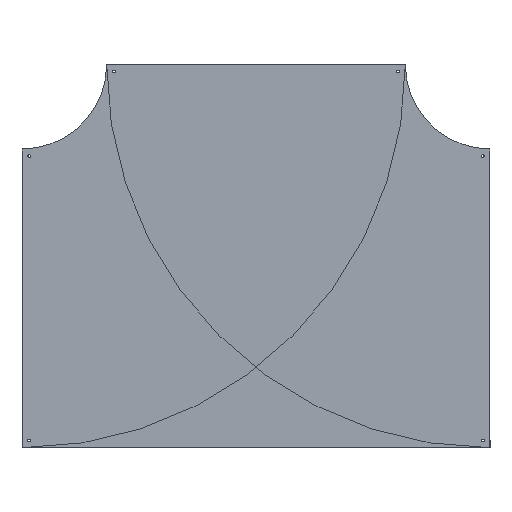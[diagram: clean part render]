
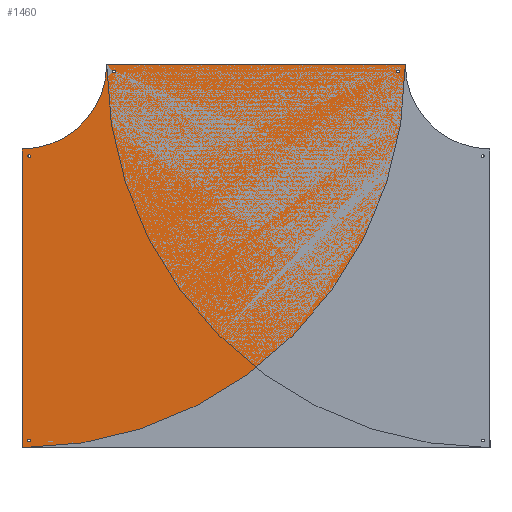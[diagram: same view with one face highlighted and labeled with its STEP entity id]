
A CAD part, top view. The second image highlights one B-rep face of the part: STEP entity #1460.
In plain terms, the highlighted planar face has unit normal (0, 0, 1).
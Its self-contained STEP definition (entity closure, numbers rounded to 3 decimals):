
#89=FACE_BOUND('',#365,.T.);
#90=FACE_BOUND('',#366,.T.);
#91=FACE_BOUND('',#367,.T.);
#92=FACE_BOUND('',#368,.T.);
#149=CIRCLE('',#1604,1351.5);
#150=CIRCLE('',#1605,298.5);
#151=CIRCLE('',#1606,5.);
#152=CIRCLE('',#1607,5.);
#153=CIRCLE('',#1608,5.);
#154=CIRCLE('',#1609,5.);
#155=CIRCLE('',#1610,5.);
#156=CIRCLE('',#1611,5.);
#157=CIRCLE('',#1612,5.);
#158=CIRCLE('',#1613,5.);
#268=FACE_OUTER_BOUND('',#364,.T.);
#364=EDGE_LOOP('',(#1224,#1225,#1226,#1227));
#365=EDGE_LOOP('',(#1228,#1229));
#366=EDGE_LOOP('',(#1230,#1231));
#367=EDGE_LOOP('',(#1232,#1233));
#368=EDGE_LOOP('',(#1234,#1235));
#488=LINE('',#2427,#602);
#492=LINE('',#2436,#606);
#602=VECTOR('',#1972,304.8);
#606=VECTOR('',#1978,304.8);
#718=VERTEX_POINT('',#2425);
#719=VERTEX_POINT('',#2426);
#722=VERTEX_POINT('',#2434);
#723=VERTEX_POINT('',#2435);
#726=VERTEX_POINT('',#2445);
#727=VERTEX_POINT('',#2446);
#728=VERTEX_POINT('',#2449);
#729=VERTEX_POINT('',#2450);
#730=VERTEX_POINT('',#2453);
#731=VERTEX_POINT('',#2454);
#732=VERTEX_POINT('',#2457);
#733=VERTEX_POINT('',#2458);
#892=EDGE_CURVE('',#718,#719,#488,.T.);
#896=EDGE_CURVE('',#722,#723,#492,.T.);
#900=EDGE_CURVE('',#718,#723,#149,.T.);
#901=EDGE_CURVE('',#722,#719,#150,.T.);
#902=EDGE_CURVE('',#726,#727,#151,.T.);
#903=EDGE_CURVE('',#727,#726,#152,.T.);
#904=EDGE_CURVE('',#728,#729,#153,.T.);
#905=EDGE_CURVE('',#729,#728,#154,.T.);
#906=EDGE_CURVE('',#730,#731,#155,.T.);
#907=EDGE_CURVE('',#731,#730,#156,.T.);
#908=EDGE_CURVE('',#732,#733,#157,.T.);
#909=EDGE_CURVE('',#733,#732,#158,.T.);
#1224=ORIENTED_EDGE('',*,*,#892,.F.);
#1225=ORIENTED_EDGE('',*,*,#900,.T.);
#1226=ORIENTED_EDGE('',*,*,#896,.F.);
#1227=ORIENTED_EDGE('',*,*,#901,.T.);
#1228=ORIENTED_EDGE('',*,*,#902,.T.);
#1229=ORIENTED_EDGE('',*,*,#903,.T.);
#1230=ORIENTED_EDGE('',*,*,#904,.T.);
#1231=ORIENTED_EDGE('',*,*,#905,.T.);
#1232=ORIENTED_EDGE('',*,*,#906,.T.);
#1233=ORIENTED_EDGE('',*,*,#907,.T.);
#1234=ORIENTED_EDGE('',*,*,#908,.T.);
#1235=ORIENTED_EDGE('',*,*,#909,.T.);
#1396=PLANE('',#1603);
#1460=ADVANCED_FACE('',(#268,#89,#90,#91,#92),#1396,.T.);
#1603=AXIS2_PLACEMENT_3D('',#2442,#1982,#1983);
#1604=AXIS2_PLACEMENT_3D('',#2443,#1984,#1985);
#1605=AXIS2_PLACEMENT_3D('',#2444,#1986,#1987);
#1606=AXIS2_PLACEMENT_3D('',#2447,#1988,#1989);
#1607=AXIS2_PLACEMENT_3D('',#2448,#1990,#1991);
#1608=AXIS2_PLACEMENT_3D('',#2451,#1992,#1993);
#1609=AXIS2_PLACEMENT_3D('',#2452,#1994,#1995);
#1610=AXIS2_PLACEMENT_3D('',#2455,#1996,#1997);
#1611=AXIS2_PLACEMENT_3D('',#2456,#1998,#1999);
#1612=AXIS2_PLACEMENT_3D('',#2459,#2000,#2001);
#1613=AXIS2_PLACEMENT_3D('',#2460,#2002,#2003);
#1972=DIRECTION('',(0.,1.,0.));
#1978=DIRECTION('',(1.,0.,0.));
#1982=DIRECTION('center_axis',(0.,0.,1.));
#1983=DIRECTION('ref_axis',(0.,-1.,0.));
#1984=DIRECTION('center_axis',(0.,0.,1.));
#1985=DIRECTION('ref_axis',(0.,-1.,0.));
#1986=DIRECTION('center_axis',(0.,0.,-1.));
#1987=DIRECTION('ref_axis',(0.,-1.,0.));
#1988=DIRECTION('center_axis',(0.,0.,-1.));
#1989=DIRECTION('ref_axis',(1.,0.,0.));
#1990=DIRECTION('center_axis',(0.,0.,-1.));
#1991=DIRECTION('ref_axis',(1.,0.,0.));
#1992=DIRECTION('center_axis',(0.,0.,-1.));
#1993=DIRECTION('ref_axis',(1.,0.,0.));
#1994=DIRECTION('center_axis',(0.,0.,-1.));
#1995=DIRECTION('ref_axis',(1.,0.,0.));
#1996=DIRECTION('center_axis',(0.,0.,-1.));
#1997=DIRECTION('ref_axis',(1.,0.,0.));
#1998=DIRECTION('center_axis',(0.,0.,-1.));
#1999=DIRECTION('ref_axis',(1.,0.,0.));
#2000=DIRECTION('center_axis',(0.,0.,-1.));
#2001=DIRECTION('ref_axis',(1.,0.,0.));
#2002=DIRECTION('center_axis',(0.,0.,-1.));
#2003=DIRECTION('ref_axis',(1.,0.,0.));
#2425=CARTESIAN_POINT('',(-825.,-526.5,1.5));
#2426=CARTESIAN_POINT('',(-825.,526.5,1.5));
#2427=CARTESIAN_POINT('',(-825.,-526.5,1.5));
#2434=CARTESIAN_POINT('',(-526.5,825.,1.5));
#2435=CARTESIAN_POINT('',(526.5,825.,1.5));
#2436=CARTESIAN_POINT('',(-526.5,825.,1.5));
#2442=CARTESIAN_POINT('Origin',(-825.,825.,1.5));
#2443=CARTESIAN_POINT('Origin',(-825.,825.,1.5));
#2444=CARTESIAN_POINT('Origin',(-825.,825.,1.5));
#2445=CARTESIAN_POINT('',(-795.,-501.5,1.5));
#2446=CARTESIAN_POINT('',(-805.,-501.5,1.5));
#2447=CARTESIAN_POINT('Origin',(-800.,-501.5,1.5));
#2448=CARTESIAN_POINT('Origin',(-800.,-501.5,1.5));
#2449=CARTESIAN_POINT('',(-795.,501.5,1.5));
#2450=CARTESIAN_POINT('',(-805.,501.5,1.5));
#2451=CARTESIAN_POINT('Origin',(-800.,501.5,1.5));
#2452=CARTESIAN_POINT('Origin',(-800.,501.5,1.5));
#2453=CARTESIAN_POINT('',(-495.,800.,1.5));
#2454=CARTESIAN_POINT('',(-505.,800.,1.5));
#2455=CARTESIAN_POINT('Origin',(-500.,800.,1.5));
#2456=CARTESIAN_POINT('Origin',(-500.,800.,1.5));
#2457=CARTESIAN_POINT('',(505.,800.,1.5));
#2458=CARTESIAN_POINT('',(495.,800.,1.5));
#2459=CARTESIAN_POINT('Origin',(500.,800.,1.5));
#2460=CARTESIAN_POINT('Origin',(500.,800.,1.5));
